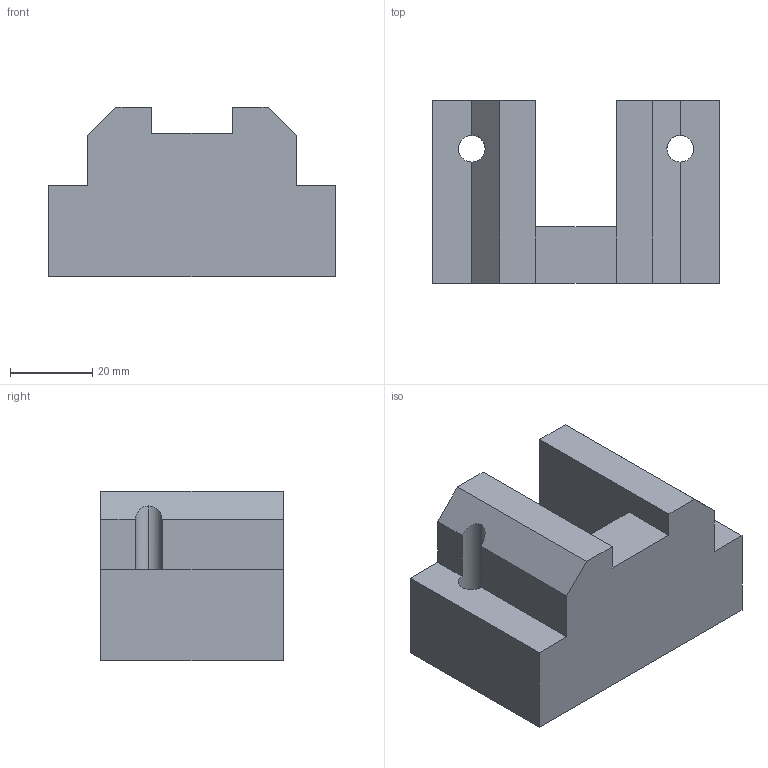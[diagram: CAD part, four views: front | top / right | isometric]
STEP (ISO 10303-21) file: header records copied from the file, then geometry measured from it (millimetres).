
FILE_DESCRIPTION (( 'STEP AP203' ), '1' );
FILE_NAME ('269-18-412.STEP', '2020-03-02T21:06:38', ( '' ), ( '' ), 'SwSTEP 2.0', 'SolidWorks 2017', '' );
FILE_SCHEMA (( 'CONFIG_CONTROL_DESIGN' ));
Length unit declared in the file: inch
Products named in the file (1): 269-18-412
Bounding box: 69.85 x 44.45 x 41.27 mm (x, y, z)
Volume: 81474.7 mm3; surface area: 16626.1 mm2
Topology: 1 solids, 1 shells, 24 faces, 72 edges, 48 vertices
Faces by surface type: plane 20, cylinder 4
Entity records: 891 total; most frequent: CARTESIAN_POINT 157, ORIENTED_EDGE 144, DIRECTION 126, EDGE_CURVE 72, VECTOR 60, LINE 60, VERTEX_POINT 48, AXIS2_PLACEMENT_3D 33
